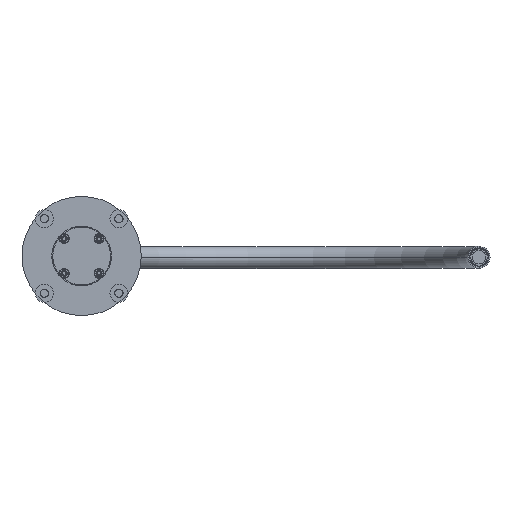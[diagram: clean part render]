
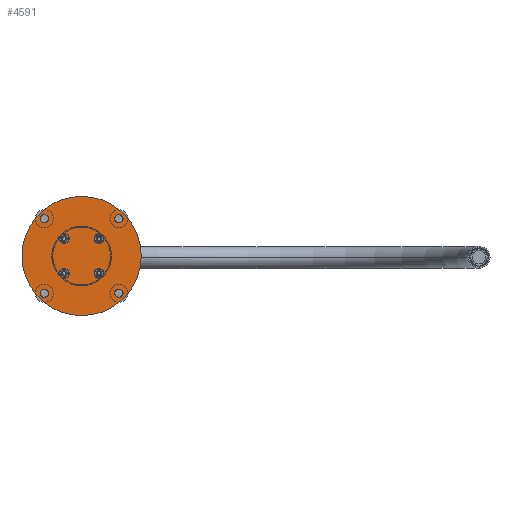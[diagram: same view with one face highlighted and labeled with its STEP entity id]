
A CAD part, top view. The second image highlights one B-rep face of the part: STEP entity #4591.
In plain terms, the highlighted planar face has unit normal (0, 0, 1) as drawn and (0, -1, 0) by its records, which use the part's own axes.
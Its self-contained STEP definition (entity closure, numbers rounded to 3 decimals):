
#3976=CARTESIAN_POINT('',(0.,0.,0.));
#3977=DIRECTION('',(0.,1.,0.));
#3978=DIRECTION('',(1.,0.,0.));
#3979=AXIS2_PLACEMENT_3D('',#3976,#3977,#3978);
#3981=CARTESIAN_POINT('',(0.,0.,0.));
#3982=DIRECTION('',(0.,1.,0.));
#3983=DIRECTION('',(-1.,0.,0.));
#3984=AXIS2_PLACEMENT_3D('',#3981,#3982,#3983);
#3986=CARTESIAN_POINT('',(37.5,0.,-37.5));
#3987=DIRECTION('',(0.,-1.,0.));
#3988=DIRECTION('',(1.,0.,0.));
#3989=AXIS2_PLACEMENT_3D('',#3986,#3987,#3988);
#3991=CARTESIAN_POINT('',(37.5,0.,-37.5));
#3992=DIRECTION('',(0.,-1.,0.));
#3993=DIRECTION('',(-1.,0.,0.));
#3994=AXIS2_PLACEMENT_3D('',#3991,#3992,#3993);
#3996=CARTESIAN_POINT('',(37.5,0.,37.5));
#3997=DIRECTION('',(0.,-1.,0.));
#3998=DIRECTION('',(1.,0.,0.));
#3999=AXIS2_PLACEMENT_3D('',#3996,#3997,#3998);
#4001=CARTESIAN_POINT('',(37.5,0.,37.5));
#4002=DIRECTION('',(0.,-1.,0.));
#4003=DIRECTION('',(-1.,0.,0.));
#4004=AXIS2_PLACEMENT_3D('',#4001,#4002,#4003);
#4006=CARTESIAN_POINT('',(-37.5,0.,-37.5));
#4007=DIRECTION('',(0.,-1.,0.));
#4008=DIRECTION('',(1.,0.,0.));
#4009=AXIS2_PLACEMENT_3D('',#4006,#4007,#4008);
#4011=CARTESIAN_POINT('',(-37.5,0.,-37.5));
#4012=DIRECTION('',(0.,-1.,0.));
#4013=DIRECTION('',(-1.,0.,0.));
#4014=AXIS2_PLACEMENT_3D('',#4011,#4012,#4013);
#4016=CARTESIAN_POINT('',(-37.5,0.,37.5));
#4017=DIRECTION('',(0.,-1.,0.));
#4018=DIRECTION('',(1.,0.,0.));
#4019=AXIS2_PLACEMENT_3D('',#4016,#4017,#4018);
#4021=CARTESIAN_POINT('',(-37.5,0.,37.5));
#4022=DIRECTION('',(0.,-1.,0.));
#4023=DIRECTION('',(-1.,0.,0.));
#4024=AXIS2_PLACEMENT_3D('',#4021,#4022,#4023);
#4026=CARTESIAN_POINT('',(17.5,0.,-17.5));
#4027=DIRECTION('',(0.,-1.,0.));
#4028=DIRECTION('',(1.,0.,0.));
#4029=AXIS2_PLACEMENT_3D('',#4026,#4027,#4028);
#4031=CARTESIAN_POINT('',(17.5,0.,-17.5));
#4032=DIRECTION('',(0.,-1.,0.));
#4033=DIRECTION('',(-1.,0.,0.));
#4034=AXIS2_PLACEMENT_3D('',#4031,#4032,#4033);
#4036=CARTESIAN_POINT('',(-17.5,0.,-17.5));
#4037=DIRECTION('',(0.,-1.,0.));
#4038=DIRECTION('',(1.,0.,0.));
#4039=AXIS2_PLACEMENT_3D('',#4036,#4037,#4038);
#4041=CARTESIAN_POINT('',(-17.5,0.,-17.5));
#4042=DIRECTION('',(0.,-1.,0.));
#4043=DIRECTION('',(-1.,0.,0.));
#4044=AXIS2_PLACEMENT_3D('',#4041,#4042,#4043);
#4046=CARTESIAN_POINT('',(17.5,0.,17.5));
#4047=DIRECTION('',(0.,-1.,0.));
#4048=DIRECTION('',(1.,0.,0.));
#4049=AXIS2_PLACEMENT_3D('',#4046,#4047,#4048);
#4051=CARTESIAN_POINT('',(17.5,0.,17.5));
#4052=DIRECTION('',(0.,-1.,0.));
#4053=DIRECTION('',(-1.,0.,0.));
#4054=AXIS2_PLACEMENT_3D('',#4051,#4052,#4053);
#4056=CARTESIAN_POINT('',(-17.5,0.,17.5));
#4057=DIRECTION('',(0.,-1.,0.));
#4058=DIRECTION('',(1.,0.,0.));
#4059=AXIS2_PLACEMENT_3D('',#4056,#4057,#4058);
#4061=CARTESIAN_POINT('',(-17.5,0.,17.5));
#4062=DIRECTION('',(0.,-1.,0.));
#4063=DIRECTION('',(-1.,0.,0.));
#4064=AXIS2_PLACEMENT_3D('',#4061,#4062,#4063);
#4412=CARTESIAN_POINT('',(60.,0.,0.));
#4413=CARTESIAN_POINT('',(-60.,0.,0.));
#4414=VERTEX_POINT('',#4412);
#4415=VERTEX_POINT('',#4413);
#4416=CARTESIAN_POINT('',(41.75,0.,-37.5));
#4417=CARTESIAN_POINT('',(33.25,0.,-37.5));
#4418=VERTEX_POINT('',#4416);
#4419=VERTEX_POINT('',#4417);
#4432=CARTESIAN_POINT('',(41.75,0.,37.5));
#4433=CARTESIAN_POINT('',(33.25,0.,37.5));
#4434=VERTEX_POINT('',#4432);
#4435=VERTEX_POINT('',#4433);
#4436=CARTESIAN_POINT('',(-33.25,0.,-37.5));
#4437=CARTESIAN_POINT('',(-41.75,0.,-37.5));
#4438=VERTEX_POINT('',#4436);
#4439=VERTEX_POINT('',#4437);
#4440=CARTESIAN_POINT('',(-33.25,0.,37.5));
#4441=CARTESIAN_POINT('',(-41.75,0.,37.5));
#4442=VERTEX_POINT('',#4440);
#4443=VERTEX_POINT('',#4441);
#4484=CARTESIAN_POINT('',(22.5,0.,-17.5));
#4485=VERTEX_POINT('',#4484);
#4486=CARTESIAN_POINT('',(12.5,0.,-17.5));
#4487=VERTEX_POINT('',#4486);
#4488=CARTESIAN_POINT('',(-12.5,0.,-17.5));
#4489=VERTEX_POINT('',#4488);
#4490=CARTESIAN_POINT('',(-22.5,0.,-17.5));
#4491=VERTEX_POINT('',#4490);
#4492=CARTESIAN_POINT('',(22.5,0.,17.5));
#4493=VERTEX_POINT('',#4492);
#4494=CARTESIAN_POINT('',(12.5,0.,17.5));
#4495=VERTEX_POINT('',#4494);
#4496=CARTESIAN_POINT('',(-12.5,0.,17.5));
#4497=VERTEX_POINT('',#4496);
#4498=CARTESIAN_POINT('',(-22.5,0.,17.5));
#4499=VERTEX_POINT('',#4498);
#4532=CARTESIAN_POINT('',(0.,0.,0.));
#4533=DIRECTION('',(0.,1.,0.));
#4534=DIRECTION('',(1.,0.,0.));
#4535=AXIS2_PLACEMENT_3D('',#4532,#4533,#4534);
#4536=PLANE('',#4535);
#4538=ORIENTED_EDGE('',*,*,#4537,.T.);
#4540=ORIENTED_EDGE('',*,*,#4539,.T.);
#4541=EDGE_LOOP('',(#4538,#4540));
#4542=FACE_OUTER_BOUND('',#4541,.F.);
#4544=ORIENTED_EDGE('',*,*,#4543,.T.);
#4546=ORIENTED_EDGE('',*,*,#4545,.T.);
#4547=EDGE_LOOP('',(#4544,#4546));
#4548=FACE_BOUND('',#4547,.F.);
#4550=ORIENTED_EDGE('',*,*,#4549,.T.);
#4552=ORIENTED_EDGE('',*,*,#4551,.T.);
#4553=EDGE_LOOP('',(#4550,#4552));
#4554=FACE_BOUND('',#4553,.F.);
#4556=ORIENTED_EDGE('',*,*,#4555,.T.);
#4558=ORIENTED_EDGE('',*,*,#4557,.T.);
#4559=EDGE_LOOP('',(#4556,#4558));
#4560=FACE_BOUND('',#4559,.F.);
#4562=ORIENTED_EDGE('',*,*,#4561,.T.);
#4564=ORIENTED_EDGE('',*,*,#4563,.T.);
#4565=EDGE_LOOP('',(#4562,#4564));
#4566=FACE_BOUND('',#4565,.F.);
#4568=ORIENTED_EDGE('',*,*,#4567,.T.);
#4570=ORIENTED_EDGE('',*,*,#4569,.T.);
#4571=EDGE_LOOP('',(#4568,#4570));
#4572=FACE_BOUND('',#4571,.F.);
#4574=ORIENTED_EDGE('',*,*,#4573,.T.);
#4576=ORIENTED_EDGE('',*,*,#4575,.T.);
#4577=EDGE_LOOP('',(#4574,#4576));
#4578=FACE_BOUND('',#4577,.F.);
#4580=ORIENTED_EDGE('',*,*,#4579,.T.);
#4582=ORIENTED_EDGE('',*,*,#4581,.T.);
#4583=EDGE_LOOP('',(#4580,#4582));
#4584=FACE_BOUND('',#4583,.F.);
#4586=ORIENTED_EDGE('',*,*,#4585,.T.);
#4588=ORIENTED_EDGE('',*,*,#4587,.T.);
#4589=EDGE_LOOP('',(#4586,#4588));
#4590=FACE_BOUND('',#4589,.F.);
#3980=CIRCLE('',#3979,60.);
#3985=CIRCLE('',#3984,60.);
#3990=CIRCLE('',#3989,4.25);
#3995=CIRCLE('',#3994,4.25);
#4000=CIRCLE('',#3999,4.25);
#4005=CIRCLE('',#4004,4.25);
#4010=CIRCLE('',#4009,4.25);
#4015=CIRCLE('',#4014,4.25);
#4020=CIRCLE('',#4019,4.25);
#4025=CIRCLE('',#4024,4.25);
#4030=CIRCLE('',#4029,5.);
#4035=CIRCLE('',#4034,5.);
#4040=CIRCLE('',#4039,5.);
#4045=CIRCLE('',#4044,5.);
#4050=CIRCLE('',#4049,5.);
#4055=CIRCLE('',#4054,5.);
#4060=CIRCLE('',#4059,5.);
#4065=CIRCLE('',#4064,5.);
#4537=EDGE_CURVE('',#4414,#4415,#3980,.T.);
#4539=EDGE_CURVE('',#4415,#4414,#3985,.T.);
#4543=EDGE_CURVE('',#4418,#4419,#3990,.T.);
#4545=EDGE_CURVE('',#4419,#4418,#3995,.T.);
#4549=EDGE_CURVE('',#4434,#4435,#4000,.T.);
#4551=EDGE_CURVE('',#4435,#4434,#4005,.T.);
#4555=EDGE_CURVE('',#4438,#4439,#4010,.T.);
#4557=EDGE_CURVE('',#4439,#4438,#4015,.T.);
#4561=EDGE_CURVE('',#4442,#4443,#4020,.T.);
#4563=EDGE_CURVE('',#4443,#4442,#4025,.T.);
#4567=EDGE_CURVE('',#4485,#4487,#4030,.T.);
#4569=EDGE_CURVE('',#4487,#4485,#4035,.T.);
#4573=EDGE_CURVE('',#4489,#4491,#4040,.T.);
#4575=EDGE_CURVE('',#4491,#4489,#4045,.T.);
#4579=EDGE_CURVE('',#4493,#4495,#4050,.T.);
#4581=EDGE_CURVE('',#4495,#4493,#4055,.T.);
#4585=EDGE_CURVE('',#4497,#4499,#4060,.T.);
#4587=EDGE_CURVE('',#4499,#4497,#4065,.T.);
#4591=ADVANCED_FACE('',(#4542,#4548,#4554,#4560,#4566,#4572,#4578,#4584,#4590),
#4536,.F.);
